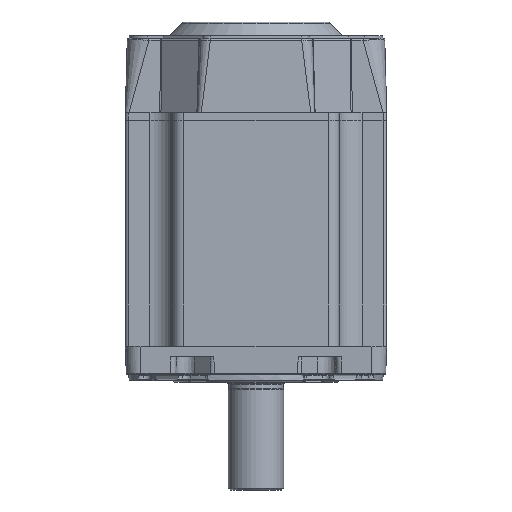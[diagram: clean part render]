
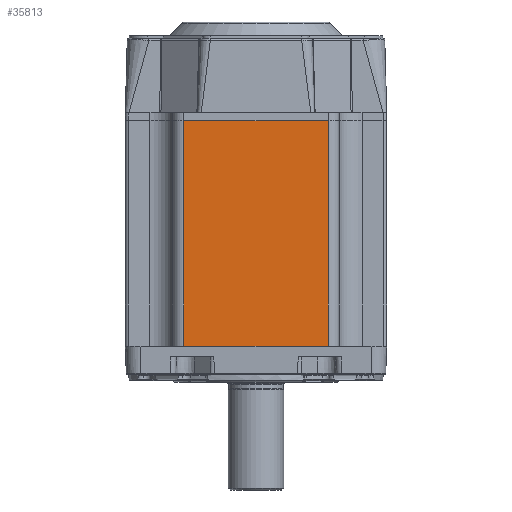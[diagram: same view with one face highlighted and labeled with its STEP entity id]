
A CAD part, front view. The second image highlights one B-rep face of the part: STEP entity #35813.
In plain terms, the highlighted planar face has unit normal (0, -1, 0).
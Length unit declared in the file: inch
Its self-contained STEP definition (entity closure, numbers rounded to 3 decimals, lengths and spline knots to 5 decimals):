
#33610=CARTESIAN_POINT('',(1.2275,-2.225,-3.84));
#33611=VERTEX_POINT('',#33610);
#33618=CARTESIAN_POINT('',(-1.2275,-2.225,-3.84));
#33619=VERTEX_POINT('',#33618);
#33620=CARTESIAN_POINT('',(-1.2275,-2.225,-3.84));
#33621=DIRECTION('',(1.0,0.0,0.0));
#33622=VECTOR('',#33621,2.455);
#33623=LINE('',#33620,#33622);
#33624=EDGE_CURVE('',#33619,#33611,#33623,.T.);
#35730=CARTESIAN_POINT('',(1.2275,-2.225,0.));
#35731=VERTEX_POINT('',#35730);
#35739=CARTESIAN_POINT('',(1.2275,-2.225,0.));
#35740=DIRECTION('',(0.0,0.0,-1.0));
#35741=VECTOR('',#35740,3.84);
#35742=LINE('',#35739,#35741);
#35743=EDGE_CURVE('',#35731,#33611,#35742,.T.);
#35790=CARTESIAN_POINT('',(1.415,-2.225,0.0));
#35791=DIRECTION('',(0.0,-1.0,0.0));
#35792=DIRECTION('',(0.0,0.0,-1.0));
#35793=AXIS2_PLACEMENT_3D('',#35790,#35791,#35792);
#35794=PLANE('',#35793);
#35795=CARTESIAN_POINT('',(-1.2275,-2.225,0.));
#35796=VERTEX_POINT('',#35795);
#35797=CARTESIAN_POINT('',(1.2275,-2.225,0.));
#35798=DIRECTION('',(-1.0,0.0,0.0));
#35799=VECTOR('',#35798,2.455);
#35800=LINE('',#35797,#35799);
#35801=EDGE_CURVE('',#35731,#35796,#35800,.T.);
#35802=ORIENTED_EDGE('',*,*,#35801,.T.);
#35803=CARTESIAN_POINT('',(-1.2275,-2.225,-3.84));
#35804=DIRECTION('',(0.0,0.0,1.0));
#35805=VECTOR('',#35804,3.84);
#35806=LINE('',#35803,#35805);
#35807=EDGE_CURVE('',#33619,#35796,#35806,.T.);
#35808=ORIENTED_EDGE('',*,*,#35807,.F.);
#35809=ORIENTED_EDGE('',*,*,#33624,.T.);
#35810=ORIENTED_EDGE('',*,*,#35743,.F.);
#35811=EDGE_LOOP('',(#35802,#35808,#35809,#35810));
#35812=FACE_OUTER_BOUND('',#35811,.T.);
#35813=ADVANCED_FACE('',(#35812),#35794,.T.);
